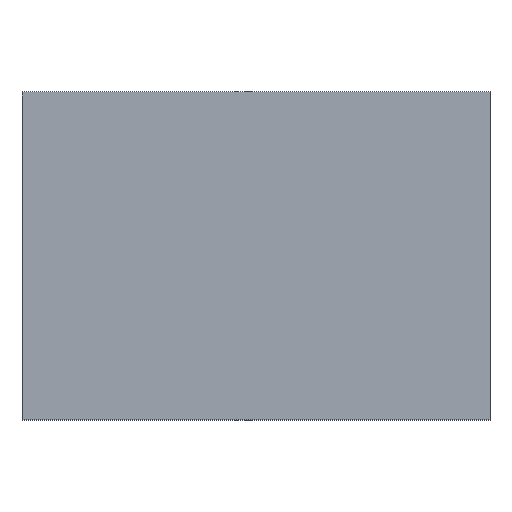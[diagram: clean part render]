
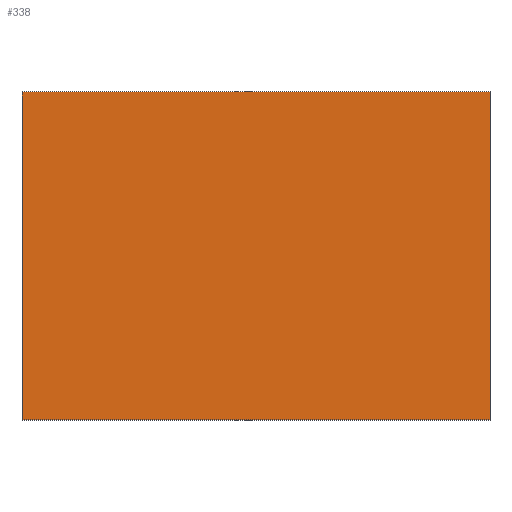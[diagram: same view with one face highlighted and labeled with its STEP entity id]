
A CAD part, top view. The second image highlights one B-rep face of the part: STEP entity #338.
In plain terms, the highlighted planar face has unit normal (0, 0, 1).
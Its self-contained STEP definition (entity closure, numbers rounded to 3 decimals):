
#24 = VERTEX_POINT('',#25);
#25 = CARTESIAN_POINT('',(-40.,-8.9,15.6));
#32 = PLANE('',#33);
#33 = AXIS2_PLACEMENT_3D('',#34,#35,#36);
#34 = CARTESIAN_POINT('',(-40.,-8.9,14.));
#35 = DIRECTION('',(1.,0.,0.));
#36 = DIRECTION('',(0.,0.,1.));
#44 = PLANE('',#45);
#45 = AXIS2_PLACEMENT_3D('',#46,#47,#48);
#46 = CARTESIAN_POINT('',(-40.,-8.9,14.));
#47 = DIRECTION('',(0.,1.,0.));
#48 = DIRECTION('',(0.,0.,1.));
#85 = VERTEX_POINT('',#86);
#86 = CARTESIAN_POINT('',(-40.,8.9,15.6));
#100 = PLANE('',#101);
#101 = AXIS2_PLACEMENT_3D('',#102,#103,#104);
#102 = CARTESIAN_POINT('',(-40.,8.9,14.));
#103 = DIRECTION('',(0.,1.,0.));
#104 = DIRECTION('',(0.,0.,1.));
#112 = EDGE_CURVE('',#24,#85,#113,.T.);
#113 = SURFACE_CURVE('',#114,(#118,#125),.PCURVE_S1.);
#114 = LINE('',#115,#116);
#115 = CARTESIAN_POINT('',(-40.,-8.9,15.6));
#116 = VECTOR('',#117,1.);
#117 = DIRECTION('',(0.,1.,0.));
#118 = PCURVE('',#32,#119);
#119 = DEFINITIONAL_REPRESENTATION('',(#120),#124);
#120 = LINE('',#121,#122);
#121 = CARTESIAN_POINT('',(1.6,0.));
#122 = VECTOR('',#123,1.);
#123 = DIRECTION('',(0.,-1.));
#124 = ( GEOMETRIC_REPRESENTATION_CONTEXT(2) 
PARAMETRIC_REPRESENTATION_CONTEXT() REPRESENTATION_CONTEXT('2D SPACE',''
  ) );
#125 = PCURVE('',#126,#131);
#126 = PLANE('',#127);
#127 = AXIS2_PLACEMENT_3D('',#128,#129,#130);
#128 = CARTESIAN_POINT('',(-40.,-8.9,15.6));
#129 = DIRECTION('',(0.,0.,1.));
#130 = DIRECTION('',(1.,0.,0.));
#131 = DEFINITIONAL_REPRESENTATION('',(#132),#136);
#132 = LINE('',#133,#134);
#133 = CARTESIAN_POINT('',(0.,0.));
#134 = VECTOR('',#135,1.);
#135 = DIRECTION('',(0.,1.));
#136 = ( GEOMETRIC_REPRESENTATION_CONTEXT(2) 
PARAMETRIC_REPRESENTATION_CONTEXT() REPRESENTATION_CONTEXT('2D SPACE',''
  ) );
#144 = VERTEX_POINT('',#145);
#145 = CARTESIAN_POINT('',(-14.6,-8.9,15.6));
#152 = PLANE('',#153);
#153 = AXIS2_PLACEMENT_3D('',#154,#155,#156);
#154 = CARTESIAN_POINT('',(-14.6,-8.9,14.));
#155 = DIRECTION('',(1.,0.,0.));
#156 = DIRECTION('',(0.,0.,1.));
#195 = VERTEX_POINT('',#196);
#196 = CARTESIAN_POINT('',(-14.6,8.9,15.6));
#217 = EDGE_CURVE('',#144,#195,#218,.T.);
#218 = SURFACE_CURVE('',#219,(#223,#230),.PCURVE_S1.);
#219 = LINE('',#220,#221);
#220 = CARTESIAN_POINT('',(-14.6,-8.9,15.6));
#221 = VECTOR('',#222,1.);
#222 = DIRECTION('',(0.,1.,0.));
#223 = PCURVE('',#152,#224);
#224 = DEFINITIONAL_REPRESENTATION('',(#225),#229);
#225 = LINE('',#226,#227);
#226 = CARTESIAN_POINT('',(1.6,0.));
#227 = VECTOR('',#228,1.);
#228 = DIRECTION('',(0.,-1.));
#229 = ( GEOMETRIC_REPRESENTATION_CONTEXT(2) 
PARAMETRIC_REPRESENTATION_CONTEXT() REPRESENTATION_CONTEXT('2D SPACE',''
  ) );
#230 = PCURVE('',#126,#231);
#231 = DEFINITIONAL_REPRESENTATION('',(#232),#236);
#232 = LINE('',#233,#234);
#233 = CARTESIAN_POINT('',(25.4,0.));
#234 = VECTOR('',#235,1.);
#235 = DIRECTION('',(0.,1.));
#236 = ( GEOMETRIC_REPRESENTATION_CONTEXT(2) 
PARAMETRIC_REPRESENTATION_CONTEXT() REPRESENTATION_CONTEXT('2D SPACE',''
  ) );
#263 = EDGE_CURVE('',#24,#144,#264,.T.);
#264 = SURFACE_CURVE('',#265,(#269,#276),.PCURVE_S1.);
#265 = LINE('',#266,#267);
#266 = CARTESIAN_POINT('',(-40.,-8.9,15.6));
#267 = VECTOR('',#268,1.);
#268 = DIRECTION('',(1.,0.,0.));
#269 = PCURVE('',#44,#270);
#270 = DEFINITIONAL_REPRESENTATION('',(#271),#275);
#271 = LINE('',#272,#273);
#272 = CARTESIAN_POINT('',(1.6,0.));
#273 = VECTOR('',#274,1.);
#274 = DIRECTION('',(0.,1.));
#275 = ( GEOMETRIC_REPRESENTATION_CONTEXT(2) 
PARAMETRIC_REPRESENTATION_CONTEXT() REPRESENTATION_CONTEXT('2D SPACE',''
  ) );
#276 = PCURVE('',#126,#277);
#277 = DEFINITIONAL_REPRESENTATION('',(#278),#282);
#278 = LINE('',#279,#280);
#279 = CARTESIAN_POINT('',(0.,0.));
#280 = VECTOR('',#281,1.);
#281 = DIRECTION('',(1.,0.));
#282 = ( GEOMETRIC_REPRESENTATION_CONTEXT(2) 
PARAMETRIC_REPRESENTATION_CONTEXT() REPRESENTATION_CONTEXT('2D SPACE',''
  ) );
#310 = EDGE_CURVE('',#85,#195,#311,.T.);
#311 = SURFACE_CURVE('',#312,(#316,#323),.PCURVE_S1.);
#312 = LINE('',#313,#314);
#313 = CARTESIAN_POINT('',(-40.,8.9,15.6));
#314 = VECTOR('',#315,1.);
#315 = DIRECTION('',(1.,0.,0.));
#316 = PCURVE('',#100,#317);
#317 = DEFINITIONAL_REPRESENTATION('',(#318),#322);
#318 = LINE('',#319,#320);
#319 = CARTESIAN_POINT('',(1.6,0.));
#320 = VECTOR('',#321,1.);
#321 = DIRECTION('',(0.,1.));
#322 = ( GEOMETRIC_REPRESENTATION_CONTEXT(2) 
PARAMETRIC_REPRESENTATION_CONTEXT() REPRESENTATION_CONTEXT('2D SPACE',''
  ) );
#323 = PCURVE('',#126,#324);
#324 = DEFINITIONAL_REPRESENTATION('',(#325),#329);
#325 = LINE('',#326,#327);
#326 = CARTESIAN_POINT('',(0.,17.8));
#327 = VECTOR('',#328,1.);
#328 = DIRECTION('',(1.,0.));
#329 = ( GEOMETRIC_REPRESENTATION_CONTEXT(2) 
PARAMETRIC_REPRESENTATION_CONTEXT() REPRESENTATION_CONTEXT('2D SPACE',''
  ) );
#338 = ADVANCED_FACE('',(#339),#126,.T.);
#339 = FACE_BOUND('',#340,.T.);
#340 = EDGE_LOOP('',(#341,#342,#343,#344));
#341 = ORIENTED_EDGE('',*,*,#112,.F.);
#342 = ORIENTED_EDGE('',*,*,#263,.T.);
#343 = ORIENTED_EDGE('',*,*,#217,.T.);
#344 = ORIENTED_EDGE('',*,*,#310,.F.);
